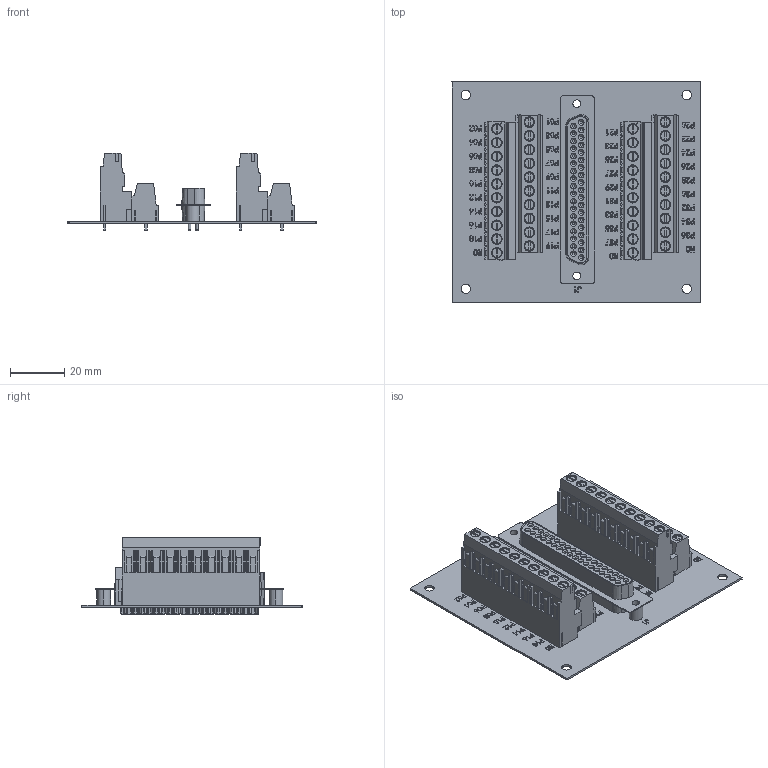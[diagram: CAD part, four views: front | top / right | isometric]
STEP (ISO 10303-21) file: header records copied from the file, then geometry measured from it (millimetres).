
FILE_DESCRIPTION (( 'STEP AP203' ), '1' );
FILE_NAME ('3Dͼֽ P37-05 V1.0.STEP', '2022-09-30T03:23:58', ( 'Microsoft' ), ( 'Microsoft' ), 'SwSTEP 2.0', 'SolidWorks 2020', '' );
FILE_SCHEMA (( 'CONFIG_CONTROL_DESIGN' ));
Length unit declared in the file: millimetre
Products named in the file (6): 5.08-2x10P詢腴弇傷赽釱; P37-05V100; Board; DB37譫眻PCB狟穩; 3Dͼֽ P37-05 V1.0; Open CASCADE STEP translator 6.8 1.1.1
Assembly tree (6 placements, depth 4):
  3Dͼֽ P37-05 V1.0
    P37-05V100
      Board
        Open CASCADE STEP translator 6.8 1.1.1
    5.08-2x10P詢腴弇傷赽釱  x2
    DB37譫眻PCB狟穩
Bounding box: 91.57 x 81.79 x 28.7 mm (x, y, z)
Volume: 45467.3 mm3; surface area: 38689.2 mm2
Topology: 46 solids, 46 shells, 3389 faces, 8367 edges, 5418 vertices
Faces by surface type: plane 2245, cylinder 525, bspline 420, cone 162, sphere 37
Entity records: 118616 total; most frequent: CARTESIAN_POINT 58456, ORIENTED_EDGE 12700, DIRECTION 10932, EDGE_CURVE 6350, VECTOR 4434, LINE 4434, VERTEX_POINT 4141, AXIS2_PLACEMENT_3D 3249
